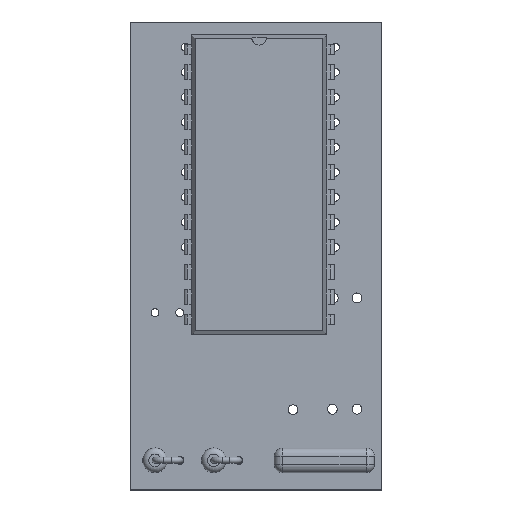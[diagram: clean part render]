
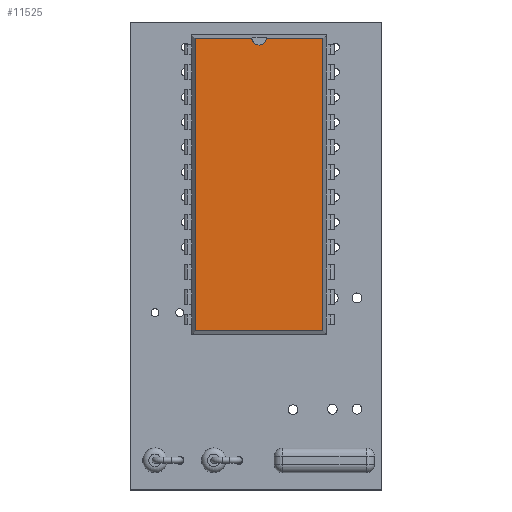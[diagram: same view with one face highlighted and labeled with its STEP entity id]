
A CAD part, top view. The second image highlights one B-rep face of the part: STEP entity #11525.
In plain terms, the highlighted planar face has unit normal (0, 0, 1).
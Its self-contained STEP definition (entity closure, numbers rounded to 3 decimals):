
#6288 = VERTEX_POINT('',#6289);
#6289 = CARTESIAN_POINT('',(13.964,0.871,3.68));
#6294 = EDGE_CURVE('',#6295,#6288,#6297,.T.);
#6295 = VERTEX_POINT('',#6296);
#6296 = CARTESIAN_POINT('',(13.964,-28.811,3.68));
#6297 = LINE('',#6298,#6299);
#6298 = CARTESIAN_POINT('',(13.964,-28.811,3.68));
#6299 = VECTOR('',#6300,1.);
#6300 = DIRECTION('',(0.,1.,0.));
#8834 = VERTEX_POINT('',#8835);
#8835 = CARTESIAN_POINT('',(1.022,0.871,3.68));
#8840 = EDGE_CURVE('',#8841,#8834,#8843,.T.);
#8841 = VERTEX_POINT('',#8842);
#8842 = CARTESIAN_POINT('',(6.747,0.871,3.68));
#8843 = LINE('',#8844,#8845);
#8844 = CARTESIAN_POINT('',(13.964,0.871,3.68));
#8845 = VECTOR('',#8846,1.);
#8846 = DIRECTION('',(-1.,0.,0.));
#8866 = VERTEX_POINT('',#8867);
#8867 = CARTESIAN_POINT('',(8.239,0.871,3.68));
#8875 = EDGE_CURVE('',#6288,#8866,#8876,.T.);
#8876 = LINE('',#8877,#8878);
#8877 = CARTESIAN_POINT('',(13.964,0.871,3.68));
#8878 = VECTOR('',#8879,1.);
#8879 = DIRECTION('',(-1.,0.,0.));
#8975 = VERTEX_POINT('',#8976);
#8976 = CARTESIAN_POINT('',(1.022,-28.811,3.68));
#8981 = EDGE_CURVE('',#8834,#8975,#8982,.T.);
#8982 = LINE('',#8983,#8984);
#8983 = CARTESIAN_POINT('',(1.022,0.871,3.68));
#8984 = VECTOR('',#8985,1.);
#8985 = DIRECTION('',(0.,-1.,0.));
#11514 = EDGE_CURVE('',#8975,#6295,#11515,.T.);
#11515 = LINE('',#11516,#11517);
#11516 = CARTESIAN_POINT('',(1.022,-28.811,3.68));
#11517 = VECTOR('',#11518,1.);
#11518 = DIRECTION('',(1.,0.,0.));
#11525 = ADVANCED_FACE('',(#11526),#11549,.F.);
#11526 = FACE_BOUND('',#11527,.F.);
#11527 = EDGE_LOOP('',(#11528,#11529,#11530,#11531,#11532,#11541,#11548)
  );
#11528 = ORIENTED_EDGE('',*,*,#6294,.F.);
#11529 = ORIENTED_EDGE('',*,*,#11514,.F.);
#11530 = ORIENTED_EDGE('',*,*,#8981,.F.);
#11531 = ORIENTED_EDGE('',*,*,#8840,.F.);
#11532 = ORIENTED_EDGE('',*,*,#11533,.F.);
#11533 = EDGE_CURVE('',#11534,#8841,#11536,.T.);
#11534 = VERTEX_POINT('',#11535);
#11535 = CARTESIAN_POINT('',(7.493,0.196,3.68));
#11536 = CIRCLE('',#11537,0.75);
#11537 = AXIS2_PLACEMENT_3D('',#11538,#11539,#11540);
#11538 = CARTESIAN_POINT('',(7.493,0.946,3.68));
#11539 = DIRECTION('',(0.,-0.,-1.));
#11540 = DIRECTION('',(0.,-1.,0.));
#11541 = ORIENTED_EDGE('',*,*,#11542,.F.);
#11542 = EDGE_CURVE('',#8866,#11534,#11543,.T.);
#11543 = CIRCLE('',#11544,0.75);
#11544 = AXIS2_PLACEMENT_3D('',#11545,#11546,#11547);
#11545 = CARTESIAN_POINT('',(7.493,0.946,3.68));
#11546 = DIRECTION('',(0.,-0.,-1.));
#11547 = DIRECTION('',(0.,-1.,0.));
#11548 = ORIENTED_EDGE('',*,*,#8875,.F.);
#11549 = PLANE('',#11550);
#11550 = AXIS2_PLACEMENT_3D('',#11551,#11552,#11553);
#11551 = CARTESIAN_POINT('',(13.964,-28.811,3.68));
#11552 = DIRECTION('',(-0.,0.,-1.));
#11553 = DIRECTION('',(-0.4,0.917,0.));
